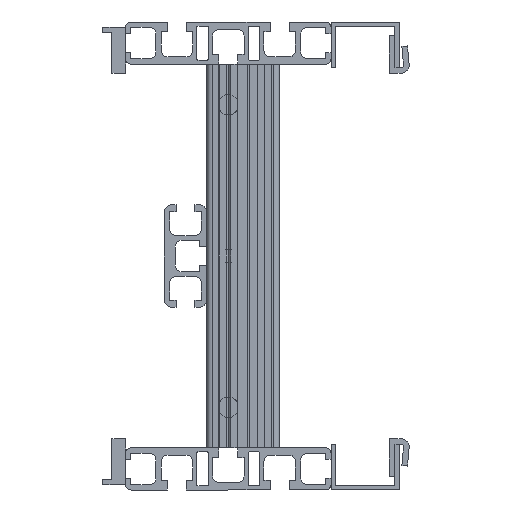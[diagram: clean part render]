
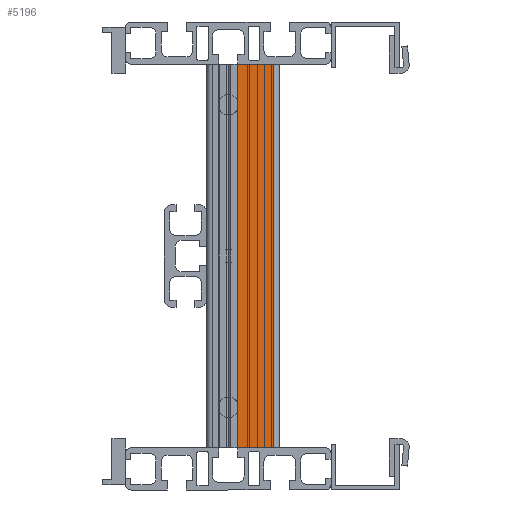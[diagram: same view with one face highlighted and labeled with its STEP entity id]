
A CAD part, left-side view. The second image highlights one B-rep face of the part: STEP entity #5196.
In plain terms, the highlighted planar face has unit normal (-1, 0, 0).
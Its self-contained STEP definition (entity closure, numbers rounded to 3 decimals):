
#1469 = EDGE_CURVE ( 'NONE', #10117, #10115, #20679, .T. ) ;
#1470 = EDGE_CURVE ( 'NONE', #10115, #10118, #20681, .T. ) ;
#1472 = EDGE_CURVE ( 'NONE', #10123, #10118, #20683, .T. ) ;
#1477 = EDGE_CURVE ( 'NONE', #10117, #10123, #20689, .T. ) ;
#5196 = ADVANCED_FACE ( 'NONE', ( #16212 ), #8445, .F. ) ;
#8138 = DIRECTION ( 'NONE',  ( 0., 1., 0. ) ) ;
#8140 = CARTESIAN_POINT ( 'NONE',  ( -500., -65., -84. ) ) ;
#8143 = CARTESIAN_POINT ( 'NONE',  ( -500., -65., 84. ) ) ;
#8144 = CARTESIAN_POINT ( 'NONE',  ( -500., -49.15, -84. ) ) ;
#8146 = DIRECTION ( 'NONE',  ( 0., 0., 1. ) ) ;
#8147 = DIRECTION ( 'NONE',  ( 0., 1., 0. ) ) ;
#8148 = DIRECTION ( 'NONE',  ( 0., 0., 1. ) ) ;
#8149 = CARTESIAN_POINT ( 'NONE',  ( -500., -65., -84. ) ) ;
#8440 = CARTESIAN_POINT ( 'NONE',  ( -500., -65., -84. ) ) ;
#8445 = PLANE ( 'NONE',  #21134 ) ;
#8448 = DIRECTION ( 'NONE',  ( 1., 0., 0. ) ) ;
#8449 = DIRECTION ( 'NONE',  ( 0., 0., -1. ) ) ;
#10115 = VERTEX_POINT ( 'NONE', #23328 ) ;
#10117 = VERTEX_POINT ( 'NONE', #23330 ) ;
#10118 = VERTEX_POINT ( 'NONE', #23331 ) ;
#10123 = VERTEX_POINT ( 'NONE', #23336 ) ;
#14776 = ORIENTED_EDGE ( 'NONE', *, *, #1472, .T. ) ;
#15154 = ORIENTED_EDGE ( 'NONE', *, *, #1477, .T. ) ;
#15278 = ORIENTED_EDGE ( 'NONE', *, *, #1469, .F. ) ;
#15550 = ORIENTED_EDGE ( 'NONE', *, *, #1470, .F. ) ;
#16212 = FACE_OUTER_BOUND ( 'NONE', #21590, .T. ) ;
#20679 = LINE ( 'NONE', #8140, #20684 ) ;
#20681 = LINE ( 'NONE', #8144, #20686 ) ;
#20683 = LINE ( 'NONE', #8143, #20688 ) ;
#20684 = VECTOR ( 'NONE', #8138, 1000. ) ;
#20686 = VECTOR ( 'NONE', #8146, 1000. ) ;
#20688 = VECTOR ( 'NONE', #8147, 1000. ) ;
#20689 = LINE ( 'NONE', #8149, #20691 ) ;
#20691 = VECTOR ( 'NONE', #8148, 1000. ) ;
#21134 = AXIS2_PLACEMENT_3D ( 'NONE', #8440, #8448, #8449 ) ;
#21590 = EDGE_LOOP ( 'NONE', ( #14776, #15550, #15278, #15154 ) ) ;
#23328 = CARTESIAN_POINT ( 'NONE',  ( -500., -49.15, -84. ) ) ;
#23330 = CARTESIAN_POINT ( 'NONE',  ( -500., -65., -84. ) ) ;
#23331 = CARTESIAN_POINT ( 'NONE',  ( -500., -49.15, 84. ) ) ;
#23336 = CARTESIAN_POINT ( 'NONE',  ( -500., -65., 84. ) ) ;
